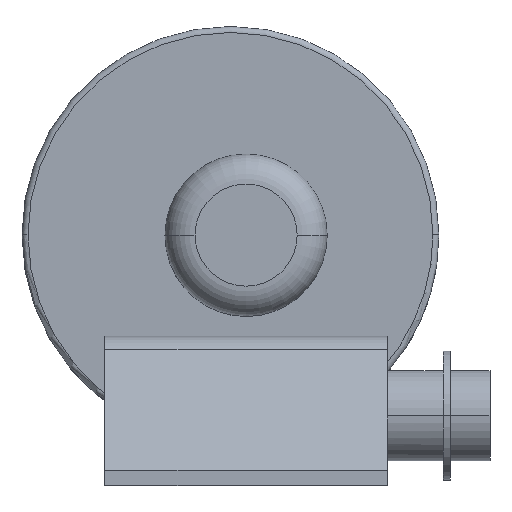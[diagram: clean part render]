
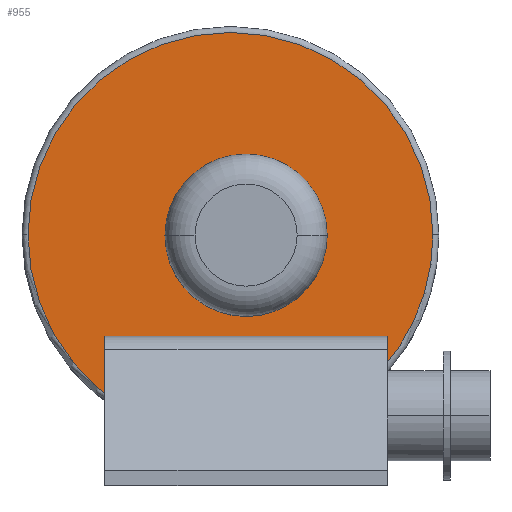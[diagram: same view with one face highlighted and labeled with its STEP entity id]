
A CAD part, top view. The second image highlights one B-rep face of the part: STEP entity #955.
In plain terms, the highlighted planar face has unit normal (0, 0, 1).
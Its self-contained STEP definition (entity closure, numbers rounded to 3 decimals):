
#55 = ORIENTED_EDGE ( 'NONE', *, *, #506, .T. ) ;
#130 = DIRECTION ( 'NONE',  ( -1., 0., 0. ) ) ;
#133 = EDGE_CURVE ( 'NONE', #1228, #852, #1627, .T. ) ;
#153 = ORIENTED_EDGE ( 'NONE', *, *, #429, .T. ) ;
#158 = ORIENTED_EDGE ( 'NONE', *, *, #2006, .T. ) ;
#186 = AXIS2_PLACEMENT_3D ( 'NONE', #1897, #917, #2059 ) ;
#232 = FACE_OUTER_BOUND ( 'NONE', #1996, .T. ) ;
#326 = VECTOR ( 'NONE', #1687, 1000. ) ;
#340 = AXIS2_PLACEMENT_3D ( 'NONE', #1509, #515, #1657 ) ;
#383 = VERTEX_POINT ( 'NONE', #1443 ) ;
#429 = EDGE_CURVE ( 'NONE', #1240, #1270, #1055, .T. ) ;
#506 = EDGE_CURVE ( 'NONE', #383, #1240, #845, .T. ) ;
#515 = DIRECTION ( 'NONE',  ( 0., 0., 1. ) ) ;
#539 = EDGE_CURVE ( 'NONE', #1270, #770, #2101, .T. ) ;
#651 = PLANE ( 'NONE',  #1749 ) ;
#711 = CARTESIAN_POINT ( 'NONE',  ( 328., -225., 0. ) ) ;
#751 = CARTESIAN_POINT ( 'NONE',  ( 0., 0.974, 0. ) ) ;
#759 = AXIS2_PLACEMENT_3D ( 'NONE', #2095, #1120, #130 ) ;
#760 = CARTESIAN_POINT ( 'NONE',  ( 0., 0., 0. ) ) ;
#762 = CIRCLE ( 'NONE', #340, 337.001 ) ;
#770 = VERTEX_POINT ( 'NONE', #1201 ) ;
#806 = DIRECTION ( 'NONE',  ( -1., 0., 0. ) ) ;
#813 = CARTESIAN_POINT ( 'NONE',  ( 135., 0., 0. ) ) ;
#845 = CIRCLE ( 'NONE', #1406, 337.001 ) ;
#852 = VERTEX_POINT ( 'NONE', #1223 ) ;
#865 = EDGE_CURVE ( 'NONE', #1079, #982, #1212, .T. ) ;
#866 = ORIENTED_EDGE ( 'NONE', *, *, #1430, .F. ) ;
#917 = DIRECTION ( 'NONE',  ( 0., 0., 1. ) ) ;
#918 = CARTESIAN_POINT ( 'NONE',  ( 328., -228., 0. ) ) ;
#934 = DIRECTION ( 'NONE',  ( -1., 0., 0. ) ) ;
#954 = DIRECTION ( 'NONE',  ( 0., 0., 1. ) ) ;
#955 = ADVANCED_FACE ( 'NONE', ( #1549, #232 ), #651, .F. ) ;
#982 = VERTEX_POINT ( 'NONE', #813 ) ;
#985 = ORIENTED_EDGE ( 'NONE', *, *, #133, .F. ) ;
#1055 = CIRCLE ( 'NONE', #186, 337.001 ) ;
#1062 = CARTESIAN_POINT ( 'NONE',  ( -135., 0., 0. ) ) ;
#1079 = VERTEX_POINT ( 'NONE', #1062 ) ;
#1120 = DIRECTION ( 'NONE',  ( 0., 0., -1. ) ) ;
#1123 = AXIS2_PLACEMENT_3D ( 'NONE', #760, #1909, #934 ) ;
#1201 = CARTESIAN_POINT ( 'NONE',  ( 0., -228., 0. ) ) ;
#1212 = CIRCLE ( 'NONE', #759, 135. ) ;
#1221 = CARTESIAN_POINT ( 'NONE',  ( 221.267, -228., 0. ) ) ;
#1223 = CARTESIAN_POINT ( 'NONE',  ( 0., -225., 0. ) ) ;
#1228 = VERTEX_POINT ( 'NONE', #2009 ) ;
#1233 = EDGE_LOOP ( 'NONE', ( #1529, #1965 ) ) ;
#1240 = VERTEX_POINT ( 'NONE', #1537 ) ;
#1267 = VECTOR ( 'NONE', #1892, 1000. ) ;
#1270 = VERTEX_POINT ( 'NONE', #1221 ) ;
#1373 = LINE ( 'NONE', #751, #1267 ) ;
#1406 = AXIS2_PLACEMENT_3D ( 'NONE', #1929, #954, #2088 ) ;
#1430 = EDGE_CURVE ( 'NONE', #852, #770, #1373, .T. ) ;
#1443 = CARTESIAN_POINT ( 'NONE',  ( 311.001, 0.974, 0. ) ) ;
#1470 = EDGE_CURVE ( 'NONE', #982, #1079, #1975, .T. ) ;
#1478 = CARTESIAN_POINT ( 'NONE',  ( -26., 0.974, 0. ) ) ;
#1509 = CARTESIAN_POINT ( 'NONE',  ( -26., 0.974, 0. ) ) ;
#1529 = ORIENTED_EDGE ( 'NONE', *, *, #865, .T. ) ;
#1537 = CARTESIAN_POINT ( 'NONE',  ( -363.001, 0.974, 0. ) ) ;
#1549 = FACE_BOUND ( 'NONE', #1233, .T. ) ;
#1627 = LINE ( 'NONE', #711, #326 ) ;
#1657 = DIRECTION ( 'NONE',  ( -1., 0., 0. ) ) ;
#1687 = DIRECTION ( 'NONE',  ( -1., 0., 0. ) ) ;
#1749 = AXIS2_PLACEMENT_3D ( 'NONE', #1478, #1786, #806 ) ;
#1786 = DIRECTION ( 'NONE',  ( 0., 0., -1. ) ) ;
#1822 = ORIENTED_EDGE ( 'NONE', *, *, #539, .T. ) ;
#1892 = DIRECTION ( 'NONE',  ( 0., -1., 0. ) ) ;
#1897 = CARTESIAN_POINT ( 'NONE',  ( -26., 0.974, 0. ) ) ;
#1905 = DIRECTION ( 'NONE',  ( -1., 0., 0. ) ) ;
#1909 = DIRECTION ( 'NONE',  ( 0., 0., -1. ) ) ;
#1929 = CARTESIAN_POINT ( 'NONE',  ( -26., 0.974, 0. ) ) ;
#1965 = ORIENTED_EDGE ( 'NONE', *, *, #1470, .T. ) ;
#1975 = CIRCLE ( 'NONE', #1123, 135. ) ;
#1996 = EDGE_LOOP ( 'NONE', ( #985, #158, #55, #153, #1822, #866 ) ) ;
#2006 = EDGE_CURVE ( 'NONE', #1228, #383, #762, .T. ) ;
#2009 = CARTESIAN_POINT ( 'NONE',  ( 224.011, -225., 0. ) ) ;
#2045 = VECTOR ( 'NONE', #1905, 1000. ) ;
#2059 = DIRECTION ( 'NONE',  ( -1., 0., 0. ) ) ;
#2088 = DIRECTION ( 'NONE',  ( -1., 0., 0. ) ) ;
#2095 = CARTESIAN_POINT ( 'NONE',  ( 0., 0., 0. ) ) ;
#2101 = LINE ( 'NONE', #918, #2045 ) ;
